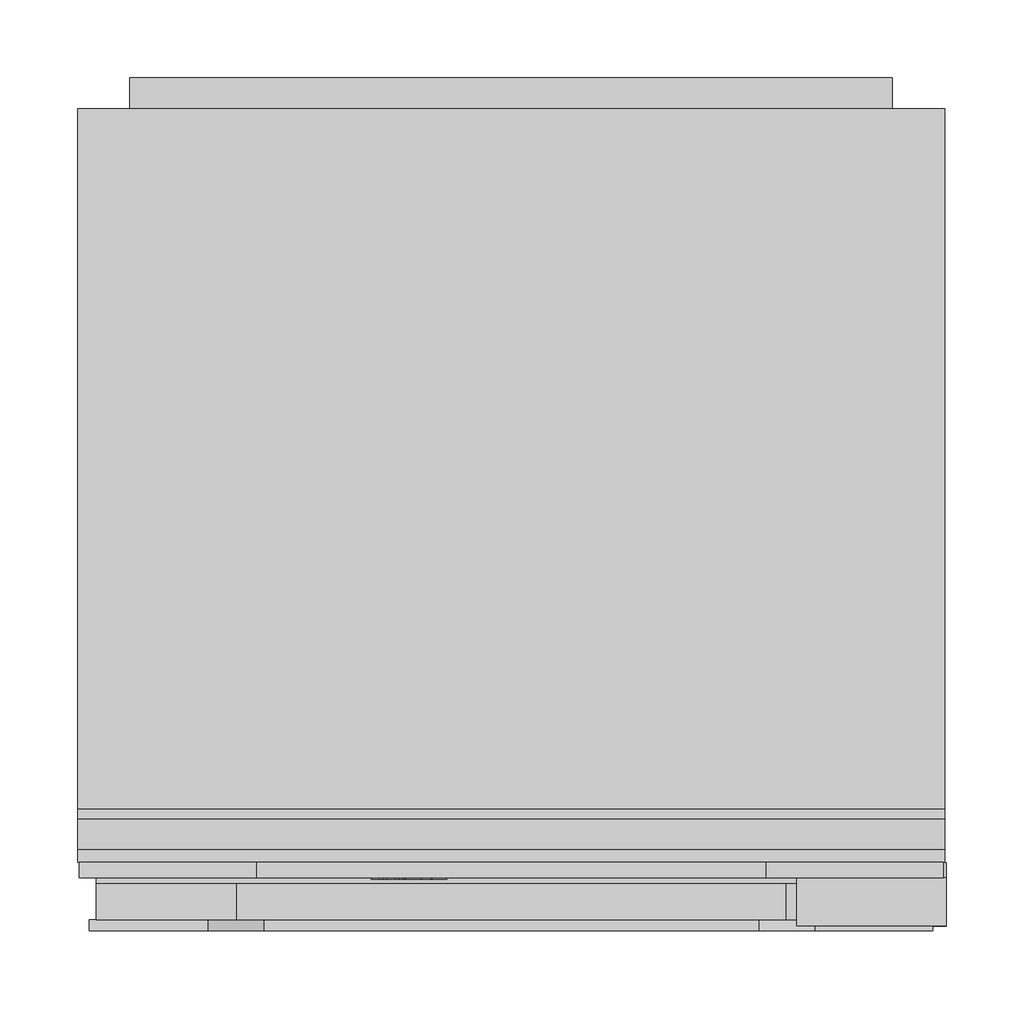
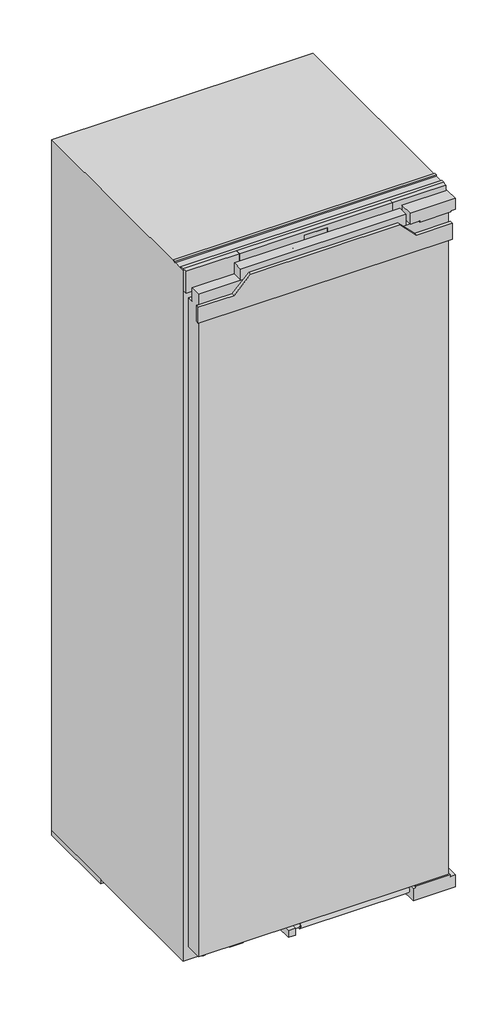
# Not in any storey: 1 proxy.
"""IFC4 building model written with IfcOpenShell, lengths in millimetres."""

from ifc_helpers import new_model, si_unit, origin, place, context, project, spatial, transform, mapped, element, save
from components import specialty_equipment_4ad7c83d

model = new_model("IFC4")

# Units and contexts
model_context = context("Model", 3, world=origin())
ifc_project = project(units=[si_unit("LENGTHUNIT", "METRE", prefix="MILLI")], contexts=[model_context])

# Site, building
site = spatial("IfcSite", under=ifc_project)
building = spatial("IfcBuilding", under=site)

# Proxy
placement = place(None, origin())
specialty_equipment_shape = specialty_equipment_4ad7c83d(model_context)
element("IfcBuildingElementProxy", 1, Name="11641370_EU1_K7674E : 36767400_EU1_11641370_K7674E", ObjectType="11641370_EU1_K7674E : 36767400_EU1_11641370_K7674E", at=placement, inside=building, context=model_context, shape_type="MappedRepresentation", body=[
    mapped(specialty_equipment_shape, transform((0.0, 0.0, 0.0), x_axis=(1.0, 0.0, 0.0), y_axis=(0.0, 1.0, 0.0), z_axis=(0.0, 0.0, 1.0))),
])

save(model, "model.ifc")
